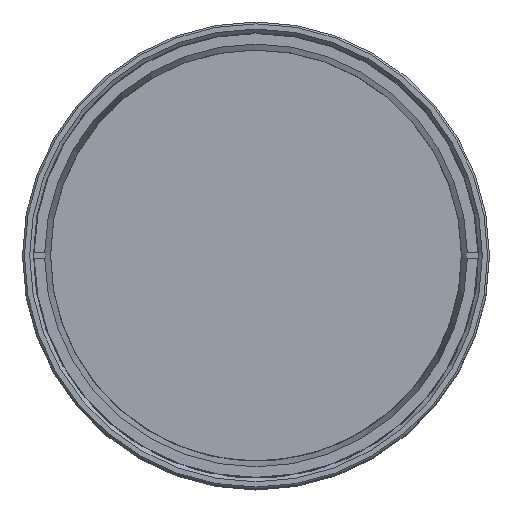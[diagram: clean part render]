
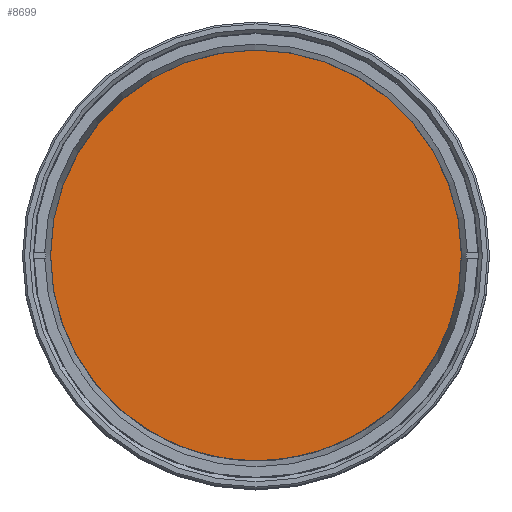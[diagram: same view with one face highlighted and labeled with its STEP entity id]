
A CAD part, top view. The second image highlights one B-rep face of the part: STEP entity #8699.
In plain terms, the highlighted planar face has unit normal (0, 0, 1).
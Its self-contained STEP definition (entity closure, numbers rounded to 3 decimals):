
#1163 = CARTESIAN_POINT ( 'NONE',  ( -55.1, 0., 249.238 ) ) ;
#2943 = CIRCLE ( 'NONE', #10464, 55.1 ) ;
#5300 = FACE_OUTER_BOUND ( 'NONE', #12683, .T. ) ;
#6785 = PLANE ( 'NONE',  #12724 ) ;
#6899 = DIRECTION ( 'NONE',  ( -1., 0., 0. ) ) ;
#6920 = DIRECTION ( 'NONE',  ( 0., 0., -1. ) ) ;
#6938 = CARTESIAN_POINT ( 'NONE',  ( 0., 0., 249.238 ) ) ;
#7338 = DIRECTION ( 'NONE',  ( -1., 0., 0. ) ) ;
#7890 = DIRECTION ( 'NONE',  ( 0., 0., -1. ) ) ;
#8699 = ADVANCED_FACE ( 'NONE', ( #5300 ), #6785, .F. ) ;
#8925 = CARTESIAN_POINT ( 'NONE',  ( 0., 0., 249.238 ) ) ;
#10464 = AXIS2_PLACEMENT_3D ( 'NONE', #6938, #6920, #6899 ) ;
#10782 = VERTEX_POINT ( 'NONE', #1163 ) ;
#11775 = ORIENTED_EDGE ( 'NONE', *, *, #12264, .F. ) ;
#12264 = EDGE_CURVE ( 'NONE', #10782, #10782, #2943, .T. ) ;
#12683 = EDGE_LOOP ( 'NONE', ( #11775 ) ) ;
#12724 = AXIS2_PLACEMENT_3D ( 'NONE', #8925, #7890, #7338 ) ;
